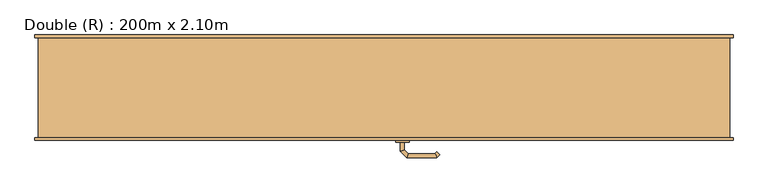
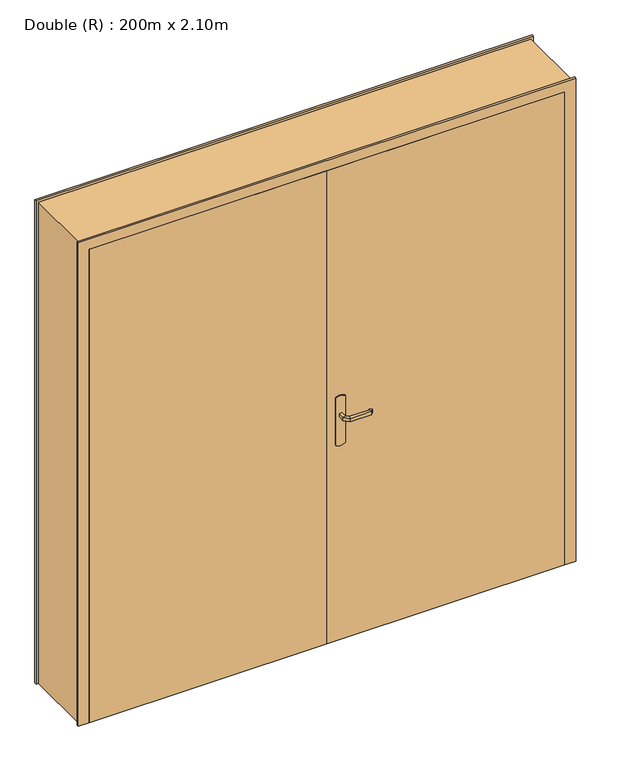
"""IFC4 building model written with IfcOpenShell, lengths in millimetres: door geometry, Double (R) : 200m x 2.10m."""

from ifc_helpers import new_model, si_unit, point, frame, frame_2d, origin, origin_with_axes, place, context, project, spatial, polyline, circle_curve, ellipse_curve, trimmed, segment, composite_curve, outline, extrude, faceted_brep, source, transform, mapped, element, save
from ifc_brep_helpers import plane_surface, cylinder_surface, advanced_brep


def double_r_200m_x_2_10m_123d72e1(model_context):
    return source(origin(), model_context, "Body", "SolidModel", [
        advanced_brep(
        [(61.0, -113.0, 993.0), (61.0, -113.0, 1007.0), (49.0, -113.0, 1007.0), (49.0, -113.0, 993.0), (61.0, -90.5147955, 993.0), (61.0, -90.5147955, 1007.0), (49.0, -85.5442327, 1007.0), (49.0, -85.5442327, 993.0), (72.4852814, -79.0295141, 993.0), (72.4852814, -79.0295141, 1007.0), (67.5147186, -67.0295141, 1007.0), (67.5147186, -67.0295141, 993.0), (152.5605023, -79.0295141, 993.0), (152.5605023, -79.0295141, 1007.0), (157.531065, -67.0295141, 1007.0), (157.531065, -67.0295141, 993.0), (157.8742108, -84.3432226, 993.0), (166.3594922, -75.8579412, 993.0), (166.3594922, -75.8579412, 1007.0), (157.8742108, -84.3432226, 1007.0)],
        [
            (0, 1),
            (1, 2, circle_curve(frame((55.0, -113.0, 986.9542278), z_axis=(0.0, -1.0, 0.0), x_axis=(-1.0, 0.0, 0.0)), 20.9244589)),
            (2, 3),
            (3, 0, circle_curve(frame((55.0, -113.0, 1013.0457722), z_axis=(0.0, -1.0, 0.0), x_axis=(-1.0, 0.0, 0.0)), 20.9244589)),
            (0, 4),
            (4, 5),
            (5, 1),
            (5, 6, ellipse_curve(frame((55.0, -88.0295141, 986.9542278), z_axis=(-0.38268343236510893, -0.9238795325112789, 0.0), x_axis=(0.9238795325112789, -0.3826834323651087, 0.0)), 22.6484711, 20.9244589)),
            (6, 2),
            (6, 7),
            (7, 3),
            (7, 4, ellipse_curve(frame((55.0, -88.0295141, 1013.0457722), z_axis=(-0.38268343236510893, -0.9238795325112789, 0.0), x_axis=(0.9238795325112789, -0.3826834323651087, 0.0)), 22.6484711, 20.9244589)),
            (4, 8),
            (8, 9),
            (9, 5),
            (9, 10, ellipse_curve(frame((70.0, -73.0295141, 986.9542278), z_axis=(-0.9238795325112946, -0.38268343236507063, 0.0), x_axis=(0.3826834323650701, -0.9238795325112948, 0.0)), 22.6484711, 20.9244589)),
            (10, 6),
            (10, 11),
            (11, 7),
            (11, 8, ellipse_curve(frame((70.0, -73.0295141, 1013.0457722), z_axis=(-0.9238795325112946, -0.38268343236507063, 0.0), x_axis=(0.3826834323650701, -0.9238795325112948, 0.0)), 22.6484711, 20.9244589)),
            (8, 12),
            (12, 13),
            (13, 9),
            (13, 14, ellipse_curve(frame((155.0457837, -73.0295141, 986.9542278), z_axis=(-0.9238795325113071, 0.38268343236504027, 0.0), x_axis=(-0.38268343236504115, -0.9238795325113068, 0.0)), 22.6484711, 20.9244589)),
            (14, 10),
            (14, 15),
            (15, 11),
            (15, 12, ellipse_curve(frame((155.0457837, -73.0295141, 1013.0457722), z_axis=(-0.9238795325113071, 0.38268343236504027, 0.0), x_axis=(-0.38268343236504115, -0.9238795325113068, 0.0)), 22.6484711, 20.9244589)),
            (16, 17, circle_curve(frame((162.1168515, -80.1005819, 1013.0457722), z_axis=(0.7071067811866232, -0.7071067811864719, 0.0), x_axis=(0.7071067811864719, 0.7071067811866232, 0.0)), 20.9244589)),
            (17, 18),
            (18, 19, circle_curve(frame((162.1168515, -80.1005819, 986.9542278), z_axis=(0.7071067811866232, -0.7071067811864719, 0.0), x_axis=(0.7071067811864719, 0.7071067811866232, 0.0)), 20.9244589)),
            (19, 16),
            (12, 16),
            (19, 13),
            (18, 14),
            (17, 15),
        ],
        [
            plane_surface(frame((45.7804555, -113.0, 1000.0), z_axis=(0.0, -1.0, 0.0), x_axis=(0.0, 0.0, 1.0))),
            plane_surface(frame((61.0, -113.0, 993.0), z_axis=(1.0, 0.0, 0.0), x_axis=(0.0, 1.0, 0.0))),
            cylinder_surface(frame((55.0, -113.0, 986.9542278), z_axis=(0.0, -1.0, 0.0), x_axis=(-1.0, 0.0, 0.0)), 20.9244589),
            plane_surface(frame((49.0, -113.0, 1007.0), z_axis=(-1.0, 0.0, 0.0), x_axis=(0.0, 1.0, 0.0))),
            cylinder_surface(frame((55.0, -113.0, 1013.0457722), z_axis=(0.0, -1.0, 0.0), x_axis=(-1.0, 0.0, 0.0)), 20.9244589),
            plane_surface(frame((61.0, -90.5147955, 993.0), z_axis=(0.707106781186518, -0.707106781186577, 0.0), x_axis=(0.707106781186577, 0.707106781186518, 0.0))),
            cylinder_surface(frame((55.0, -88.0295141, 986.9542278), z_axis=(-0.7071067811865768, -0.7071067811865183, 0.0), x_axis=(-0.7071067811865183, 0.7071067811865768, 0.0)), 20.9244589),
            plane_surface(frame((49.0, -85.5442327, 1007.0), z_axis=(-0.7071067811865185, 0.7071067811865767, 0.0), x_axis=(0.7071067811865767, 0.7071067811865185, 0.0))),
            cylinder_surface(frame((55.0, -88.0295141, 1013.0457722), z_axis=(-0.7071067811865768, -0.7071067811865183, 0.0), x_axis=(-0.7071067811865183, 0.7071067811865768, 0.0)), 20.9244589),
            plane_surface(frame((72.4852814, -79.0295141, 993.0), z_axis=(0.0, -1.0, 0.0), x_axis=(1.0, 0.0, 0.0))),
            cylinder_surface(frame((70.0, -73.0295141, 986.9542278), z_axis=(-1.0, 0.0, 0.0), x_axis=(0.0, 1.0, 0.0)), 20.9244589),
            plane_surface(frame((67.5147186, -67.0295141, 1007.0), z_axis=(0.0, 1.0, 0.0), x_axis=(1.0, 0.0, 0.0))),
            cylinder_surface(frame((70.0, -73.0295141, 1013.0457722), z_axis=(-1.0, 0.0, 0.0), x_axis=(0.0, 1.0, 0.0)), 20.9244589),
            plane_surface(frame((162.1168515, -80.1005819, 990.7804555), z_axis=(0.7071067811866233, -0.7071067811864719, 0.0), x_axis=(0.7071067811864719, 0.7071067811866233, 0.0))),
            plane_surface(frame((152.5605023, -79.0295141, 993.0), z_axis=(-0.707106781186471, -0.7071067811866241, 0.0), x_axis=(0.7071067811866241, -0.707106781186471, 0.0))),
            cylinder_surface(frame((155.0457837, -73.0295141, 986.9542278), z_axis=(-0.7071067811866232, 0.7071067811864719, 0.0), x_axis=(0.7071067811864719, 0.7071067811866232, 0.0)), 20.9244589),
            plane_surface(frame((157.531065, -67.0295141, 1007.0), z_axis=(0.7071067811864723, 0.7071067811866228, 0.0), x_axis=(0.7071067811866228, -0.7071067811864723, 0.0))),
            cylinder_surface(frame((155.0457837, -73.0295141, 1013.0457722), z_axis=(-0.7071067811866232, 0.7071067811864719, 0.0), x_axis=(0.7071067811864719, 0.7071067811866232, 0.0)), 20.9244589),
        ],
        [
            (0, [[1, 2, 3, 4]]),
            (1, [[-1, 5, 6, 7]]),
            (2, [[-2, -7, 8, 9]]),
            (3, [[-3, -9, 10, 11]]),
            (4, [[-4, -11, 12, -5]]),
            (5, [[-6, 13, 14, 15]]),
            (6, [[-8, -15, 16, 17]]),
            (7, [[-10, -17, 18, 19]]),
            (8, [[-12, -19, 20, -13]]),
            (9, [[-14, 21, 22, 23]]),
            (10, [[-16, -23, 24, 25]]),
            (11, [[-18, -25, 26, 27]]),
            (12, [[-20, -27, 28, -21]]),
            (13, [[29, 30, 31, 32]]),
            (14, [[-22, 33, -32, 34]]),
            (15, [[-24, -34, -31, 35]]),
            (16, [[-26, -35, -30, 36]]),
            (17, [[-28, -36, -29, -33]]),
        ],
    ),
        advanced_brep(
        [(49.0, -163.0, 1007.0), (61.0, -163.0, 1007.0), (61.0, -163.0, 993.0), (49.0, -163.0, 993.0), (49.0, -190.6509507, 1007.0), (61.0, -185.680388, 1007.0), (61.0, -185.680388, 993.0), (49.0, -190.6509507, 993.0), (67.37721, -209.0281607, 1007.0), (72.3477727, -197.0281607, 1007.0), (72.3477727, -197.0281607, 993.0), (67.37721, -209.0281607, 993.0), (157.503922, -209.0281607, 1007.0), (152.5333592, -197.0281607, 1007.0), (152.5333592, -197.0281607, 993.0), (157.503922, -209.0281607, 993.0), (166.3323491, -200.1997336, 1007.0), (166.3323491, -200.1997336, 993.0), (157.8470677, -191.7144522, 993.0), (157.8470677, -191.7144522, 1007.0)],
        [
            (0, 1, circle_curve(frame((55.0, -163.0, 986.9542278), z_axis=(0.0, 1.0, 0.0), x_axis=(1.0, 0.0, 0.0)), 20.9244589)),
            (1, 2),
            (2, 3, circle_curve(frame((55.0, -163.0, 1013.0457722), z_axis=(0.0, 1.0, 0.0), x_axis=(1.0, 0.0, 0.0)), 20.9244589)),
            (3, 0),
            (0, 4),
            (4, 5, ellipse_curve(frame((55.0, -188.1656693, 986.9542278), z_axis=(-0.3826834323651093, 0.9238795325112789, 0.0), x_axis=(0.9238795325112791, 0.38268343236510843, 0.0)), 22.6484711, 20.9244589)),
            (5, 1),
            (5, 6),
            (6, 2),
            (6, 7, ellipse_curve(frame((55.0, -188.1656693, 1013.0457722), z_axis=(-0.3826834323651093, 0.9238795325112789, 0.0), x_axis=(0.9238795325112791, 0.38268343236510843, 0.0)), 22.6484711, 20.9244589)),
            (7, 3),
            (7, 4),
            (4, 8),
            (8, 9, ellipse_curve(frame((69.8624914, -203.0281607, 986.9542278), z_axis=(-0.9238795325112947, 0.38268343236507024, 0.0), x_axis=(0.3826834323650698, 0.9238795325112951, 0.0)), 22.6484711, 20.9244589)),
            (9, 5),
            (9, 10),
            (10, 6),
            (10, 11, ellipse_curve(frame((69.8624914, -203.0281607, 1013.0457722), z_axis=(-0.9238795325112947, 0.38268343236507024, 0.0), x_axis=(0.3826834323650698, 0.9238795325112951, 0.0)), 22.6484711, 20.9244589)),
            (11, 7),
            (11, 8),
            (8, 12),
            (12, 13, ellipse_curve(frame((155.0186406, -203.0281607, 986.9542278), z_axis=(-0.9238795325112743, -0.3826834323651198, 0.0), x_axis=(-0.38268343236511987, 0.9238795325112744, 0.0)), 22.6484711, 20.9244589)),
            (13, 9),
            (13, 14),
            (14, 10),
            (14, 15, ellipse_curve(frame((155.0186406, -203.0281607, 1013.0457722), z_axis=(-0.9238795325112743, -0.3826834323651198, 0.0), x_axis=(-0.38268343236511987, 0.9238795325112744, 0.0)), 22.6484711, 20.9244589)),
            (15, 11),
            (15, 12),
            (16, 17),
            (17, 18, circle_curve(frame((162.0897084, -195.9570929, 1013.0457722), z_axis=(0.7071067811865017, 0.7071067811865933, 0.0), x_axis=(-0.7071067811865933, 0.7071067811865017, 0.0)), 20.9244589)),
            (18, 19),
            (19, 16, circle_curve(frame((162.0897084, -195.9570929, 986.9542278), z_axis=(0.7071067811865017, 0.7071067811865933, 0.0), x_axis=(-0.7071067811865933, 0.7071067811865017, 0.0)), 20.9244589)),
            (12, 16),
            (19, 13),
            (18, 14),
            (17, 15),
        ],
        [
            plane_surface(frame((45.7804555, -163.0, 1000.0), z_axis=(0.0, 1.0, 0.0), x_axis=(0.0, 0.0, -1.0))),
            cylinder_surface(frame((55.0, -163.0, 986.9542278), z_axis=(0.0, 1.0, 0.0), x_axis=(1.0, 0.0, 0.0)), 20.9244589),
            plane_surface(frame((61.0, -163.0, 1007.0), z_axis=(1.0, 0.0, 0.0), x_axis=(0.0, -1.0, 0.0))),
            cylinder_surface(frame((55.0, -163.0, 1013.0457722), z_axis=(0.0, 1.0, 0.0), x_axis=(1.0, 0.0, 0.0)), 20.9244589),
            plane_surface(frame((49.0, -163.0, 993.0), z_axis=(-1.0, 0.0, 0.0), x_axis=(0.0, -1.0, 0.0))),
            cylinder_surface(frame((55.0, -188.1656693, 986.9542278), z_axis=(-0.7071067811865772, 0.7071067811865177, 0.0), x_axis=(0.7071067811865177, 0.7071067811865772, 0.0)), 20.9244589),
            plane_surface(frame((61.0, -185.680388, 1007.0), z_axis=(0.7071067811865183, 0.7071067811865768, 0.0), x_axis=(0.7071067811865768, -0.7071067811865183, 0.0))),
            cylinder_surface(frame((55.0, -188.1656693, 1013.0457722), z_axis=(-0.7071067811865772, 0.7071067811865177, 0.0), x_axis=(0.7071067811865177, 0.7071067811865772, 0.0)), 20.9244589),
            plane_surface(frame((49.0, -190.6509507, 993.0), z_axis=(-0.707106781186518, -0.707106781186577, 0.0), x_axis=(0.707106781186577, -0.707106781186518, 0.0))),
            cylinder_surface(frame((69.8624914, -203.0281607, 986.9542278), z_axis=(-1.0, 0.0, 0.0), x_axis=(0.0, 1.0, 0.0)), 20.9244589),
            plane_surface(frame((72.3477727, -197.0281607, 1007.0), z_axis=(0.0, 1.0, 0.0), x_axis=(1.0, 0.0, 0.0))),
            cylinder_surface(frame((69.8624914, -203.0281607, 1013.0457722), z_axis=(-1.0, 0.0, 0.0), x_axis=(0.0, 1.0, 0.0)), 20.9244589),
            plane_surface(frame((67.37721, -209.0281607, 993.0), z_axis=(0.0, -1.0, 0.0), x_axis=(1.0, 0.0, 0.0))),
            plane_surface(frame((162.0897084, -195.9570929, 1009.2195445), z_axis=(0.7071067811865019, 0.7071067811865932, 0.0), x_axis=(0.7071067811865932, -0.7071067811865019, 0.0))),
            cylinder_surface(frame((155.0186406, -203.0281607, 986.9542278), z_axis=(-0.7071067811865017, -0.7071067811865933, 0.0), x_axis=(-0.7071067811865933, 0.7071067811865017, 0.0)), 20.9244589),
            plane_surface(frame((152.5333592, -197.0281607, 1007.0), z_axis=(-0.7071067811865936, 0.7071067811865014, 0.0), x_axis=(0.7071067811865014, 0.7071067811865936, 0.0))),
            cylinder_surface(frame((155.0186406, -203.0281607, 1013.0457722), z_axis=(-0.7071067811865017, -0.7071067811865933, 0.0), x_axis=(-0.7071067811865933, 0.7071067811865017, 0.0)), 20.9244589),
            plane_surface(frame((157.503922, -209.0281607, 993.0), z_axis=(0.707106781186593, -0.7071067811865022, 0.0), x_axis=(0.7071067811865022, 0.707106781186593, 0.0))),
        ],
        [
            (0, [[1, 2, 3, 4]]),
            (1, [[-1, 5, 6, 7]]),
            (2, [[-2, -7, 8, 9]]),
            (3, [[-3, -9, 10, 11]]),
            (4, [[-4, -11, 12, -5]]),
            (5, [[-6, 13, 14, 15]]),
            (6, [[-8, -15, 16, 17]]),
            (7, [[-10, -17, 18, 19]]),
            (8, [[-12, -19, 20, -13]]),
            (9, [[-14, 21, 22, 23]]),
            (10, [[-16, -23, 24, 25]]),
            (11, [[-18, -25, 26, 27]]),
            (12, [[-20, -27, 28, -21]]),
            (13, [[29, 30, 31, 32]]),
            (14, [[-22, 33, -32, 34]]),
            (15, [[-24, -34, -31, 35]]),
            (16, [[-26, -35, -30, 36]]),
            (17, [[-28, -36, -29, -33]]),
        ],
    ),
        extrude(outline(composite_curve([segment(trimmed(circle_curve(frame_2d((1045.3589838, 55.0)), 40.0), [point((1080.0, 75.0))], [point((1080.0, 35.0))], False, "CARTESIAN"), True, "CONTINUOUS"), segment(polyline([(1080.0, 35.0), (870.0, 35.0)]), True, "CONTINUOUS"), segment(trimmed(circle_curve(frame_2d((904.6410162, 55.0)), 40.0), [point((870.0, 35.0))], [point((870.0, 75.0))], False, "CARTESIAN"), True, "CONTINUOUS"), segment(polyline([(870.0, 75.0), (1080.0, 75.0)]), True, "CONTINUOUS")], self_intersect=False)), frame((0.0, -118.0, 0.0), z_axis=(0.0, 1.0, 0.0), x_axis=(0.0, 0.0, 1.0)), (0.0, 0.0, 1.0), 5.0),
        extrude(outline(composite_curve([segment(trimmed(circle_curve(frame_2d((904.6410162, 55.0)), 40.0), [point((870.0, 35.0))], [point((870.0, 75.0))], False, "CARTESIAN"), True, "CONTINUOUS"), segment(polyline([(870.0, 75.0), (1080.0, 75.0)]), True, "CONTINUOUS"), segment(trimmed(circle_curve(frame_2d((1045.3589838, 55.0)), 40.0), [point((1080.0, 75.0))], [point((1080.0, 35.0))], False, "CARTESIAN"), True, "CONTINUOUS"), segment(polyline([(1080.0, 35.0), (870.0, 35.0)]), True, "CONTINUOUS")], self_intersect=False)), frame((0.0, -163.0, 0.0), z_axis=(0.0, 1.0, 0.0), x_axis=(0.0, 0.0, 1.0)), (0.0, 0.0, 1.0), 5.0),
        faceted_brep([(-1035.0, -150.0, 0.0), (-1035.0, 150.0, 0.0), (-1045.0, 150.0, 0.0), (-1045.0, 158.0, 0.0), (-985.0, 158.0, 0.0), (-985.0, -118.0, 0.0), (-1000.0, -118.0, 0.0), (-1000.0, -158.0, 0.0), (-1045.0, -158.0, 0.0), (-1045.0, -150.0, 0.0), (-1035.0, -150.0, 2135.0), (-1035.0, 150.0, 2135.0), (1035.0, 150.0, 2135.0), (1035.0, 150.0, 0.0), (1045.0, 150.0, 0.0), (1045.0, 150.0, 2145.0), (-1045.0, 150.0, 2145.0), (-1045.0, 158.0, 2145.0), (1045.0, 158.0, 2145.0), (1045.0, 158.0, 0.0), (985.0, 158.0, 0.0), (985.0, 158.0, 2085.0), (-985.0, 158.0, 2085.0), (-985.0, -118.0, 2085.0), (985.0, -118.0, 2085.0), (985.0, -118.0, 0.0), (1000.0, -118.0, 0.0), (1000.0, -118.0, 2100.0), (-1000.0, -118.0, 2100.0), (-1000.0, -158.0, 2100.0), (1000.0, -158.0, 2100.0), (1000.0, -158.0, 0.0), (1045.0, -158.0, 0.0), (1045.0, -158.0, 2145.0), (-1045.0, -158.0, 2145.0), (-1045.0, -150.0, 2145.0), (1045.0, -150.0, 2145.0), (1045.0, -150.0, 0.0), (1035.0, -150.0, 0.0), (1035.0, -150.0, 2135.0)], [[[0, 1, 2, 3, 4, 5, 6, 7, 8, 9]], [[1, 0, 10, 11]], [[2, 1, 11, 12, 13, 14, 15, 16]], [[3, 2, 16, 17]], [[4, 3, 17, 18, 19, 20, 21, 22]], [[5, 4, 22, 23]], [[6, 5, 23, 24, 25, 26, 27, 28]], [[7, 6, 28, 29]], [[8, 7, 29, 30, 31, 32, 33, 34]], [[9, 8, 34, 35]], [[0, 9, 35, 36, 37, 38, 39, 10]], [[12, 39, 38, 13]], [[38, 37, 32, 31, 26, 25, 20, 19, 14, 13]], [[18, 15, 14, 19]], [[24, 21, 20, 25]], [[30, 27, 26, 31]], [[36, 33, 32, 37]], [[11, 10, 39, 12]], [[17, 16, 15, 18]], [[23, 22, 21, 24]], [[29, 28, 27, 30]], [[35, 34, 33, 36]]]),
        extrude(outline(polyline([(1000.0, -158.0), (0.0, -158.0), (0.0, -118.0), (1000.0, -118.0), (1000.0, -158.0)])), origin_with_axes(), (0.0, 0.0, 1.0), 2100.0),
        extrude(outline(polyline([(0.0, -158.0), (-1000.0, -158.0), (-1000.0, -118.0), (0.0, -118.0), (0.0, -158.0)])), origin_with_axes(), (0.0, 0.0, 1.0), 2100.0),
    ])


if __name__ == "__main__":
    model = new_model("IFC4")
    model_context = context("Model", 3, world=origin())
    ifc_project = project(units=[si_unit("LENGTHUNIT", "METRE", prefix="MILLI")], contexts=[model_context])
    site = spatial("IfcSite", under=ifc_project)
    building = spatial("IfcBuilding", under=site)
    placement = place(None, origin())
    double_r_200m_x_2_10m_shape = double_r_200m_x_2_10m_123d72e1(model_context)
    element("IfcDoor", 1, ObjectType="Double (R) : 200m x 2.10m", at=placement, inside=building, context=model_context, shape_type="MappedRepresentation", body=[
        mapped(double_r_200m_x_2_10m_shape, transform((0.0, 0.0, 0.0), x_axis=(1.0, 0.0, 0.0), y_axis=(0.0, 1.0, 0.0), z_axis=(0.0, 0.0, 1.0))),
    ])
    save(model, "model.ifc")
